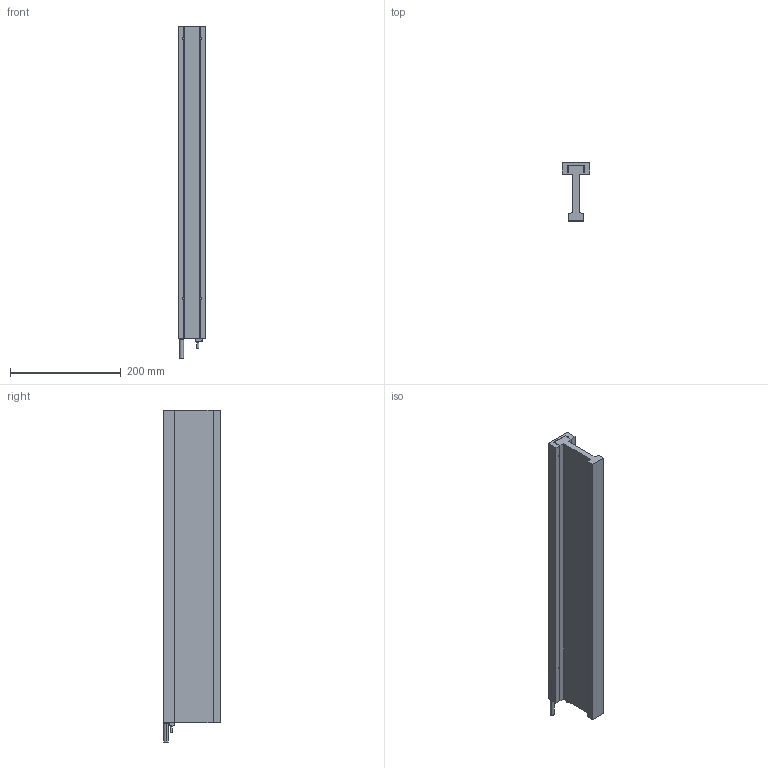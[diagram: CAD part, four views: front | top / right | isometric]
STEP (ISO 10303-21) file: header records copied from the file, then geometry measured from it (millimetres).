
FILE_DESCRIPTION (( 'STEP AP214' ), '1' );
FILE_NAME ('DX65F-C9.step', '2022-09-22T03:37:44', ( '' ), ( '' ), 'SwSTEP 2.0', 'SolidWorks 2020', '' );
FILE_SCHEMA (( 'AUTOMOTIVE_DESIGN' ));
Length unit declared in the file: millimetre
Products named in the file (1): DX65F-C9
Bounding box: 49 x 104 x 600 mm (x, y, z)
Volume: 1199744.3 mm3; surface area: 267610.2 mm2
Topology: 7 solids, 7 shells, 252 faces, 617 edges, 360 vertices
Faces by surface type: plane 96, cylinder 91, cone 56, torus 8, bspline 1
Entity records: 10157 total; most frequent: CARTESIAN_POINT 1478, DIRECTION 1266, ORIENTED_EDGE 1138, EDGE_CURVE 569, AXIS2_PLACEMENT_3D 458, VERTEX_POINT 360, LINE 350, VECTOR 350
